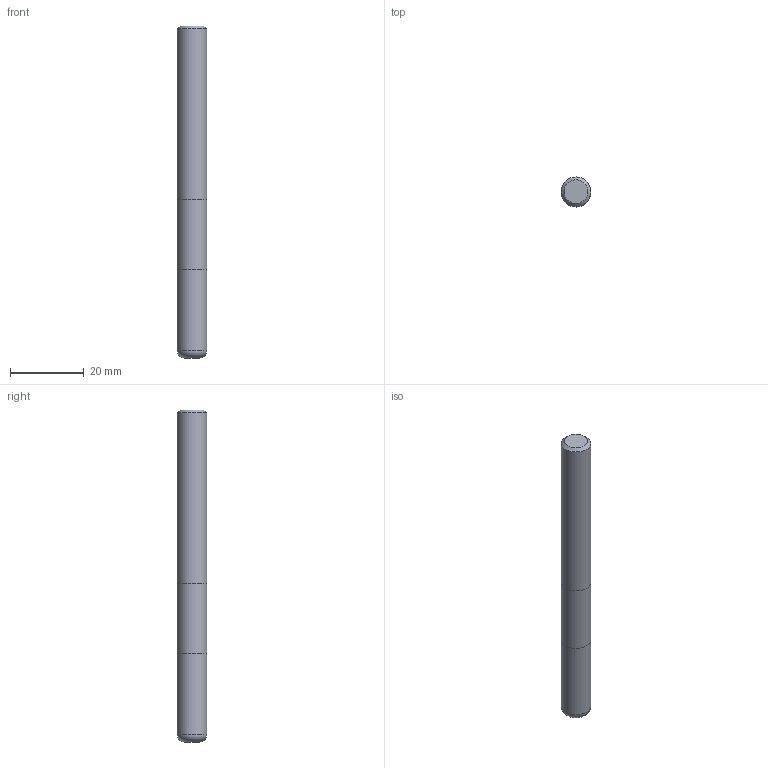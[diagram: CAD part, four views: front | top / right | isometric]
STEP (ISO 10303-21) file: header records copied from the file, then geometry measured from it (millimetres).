
FILE_DESCRIPTION((''),'2;1');
FILE_NAME('C:\Users\nsx150\AppData\Local\Temp\Mastercam 2021\03UJLO2QV3\TEMP.step','2023-09-20T09:30:03',(''),(''),'STEP Write','Mastercam 2021 ... CNC Software, Inc.','');
FILE_SCHEMA(('AUTOMOTIVE_DESIGN'));
Length unit declared in the file: millimetre
Products named in the file (1): None
Bounding box: 8 x 8 x 90 mm (x, y, z)
Volume: 4497.2 mm3; surface area: 2427 mm2
Topology: 2 solids, 2 shells, 9 faces, 12 edges, 7 vertices
Faces by surface type: plane 4, cylinder 3, torus 1, cone 1
Full cylindrical faces by diameter (mm): 8 x3
Entity records: 211 total; most frequent: DIRECTION 36, CARTESIAN_POINT 25, AXIS2_PLACEMENT_3D 18, ORIENTED_EDGE 14, EDGE_LOOP 14, STYLED_ITEM 12, ADVANCED_FACE 9, FACE_BOUND 9
